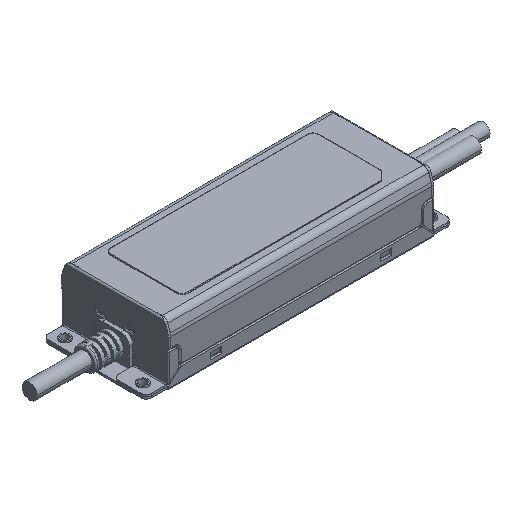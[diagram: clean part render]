
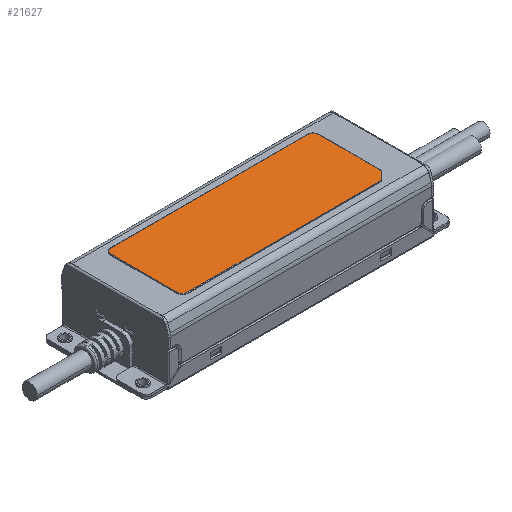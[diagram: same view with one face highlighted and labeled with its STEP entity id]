
A CAD part, isometric view. The second image highlights one B-rep face of the part: STEP entity #21627.
In plain terms, the highlighted planar face has unit normal (0, 0, 1).
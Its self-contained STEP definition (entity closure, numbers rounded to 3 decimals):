
#12642=DIRECTION('',(1.,0.,0.));
#12643=VECTOR('',#12642,113.917);
#12644=CARTESIAN_POINT('',(63.555,14.748,34.3));
#12645=LINE('',#12644,#12643);
#12694=DIRECTION('',(0.,-1.,0.));
#12695=VECTOR('',#12694,38.5);
#12696=CARTESIAN_POINT('',(60.255,56.548,34.3));
#12697=LINE('',#12696,#12695);
#12708=DIRECTION('',(-0.707,-0.707,0.));
#12709=VECTOR('',#12708,6.905);
#12710=CARTESIAN_POINT('',(182.355,19.631,34.3));
#12711=LINE('',#12710,#12709);
#12715=CARTESIAN_POINT('',(63.555,18.048,34.3));
#12716=DIRECTION('',(0.,0.,-1.));
#12717=DIRECTION('',(0.,-1.,0.));
#12718=AXIS2_PLACEMENT_3D('',#12715,#12716,#12717);
#12723=CARTESIAN_POINT('',(63.555,56.548,34.3));
#12724=DIRECTION('',(0.,0.,1.));
#12725=DIRECTION('',(0.,1.,0.));
#12726=AXIS2_PLACEMENT_3D('',#12723,#12724,#12725);
#12731=CARTESIAN_POINT('',(179.055,56.548,34.3));
#12732=DIRECTION('',(0.,0.,-1.));
#12733=DIRECTION('',(0.,1.,0.));
#12734=AXIS2_PLACEMENT_3D('',#12731,#12732,#12733);
#12739=DIRECTION('',(0.,1.,0.));
#12740=VECTOR('',#12739,36.917);
#12741=CARTESIAN_POINT('',(182.355,19.631,34.3));
#12742=LINE('',#12741,#12740);
#12836=DIRECTION('',(-1.,0.,0.));
#12837=VECTOR('',#12836,115.5);
#12838=CARTESIAN_POINT('',(179.055,59.848,34.3));
#12839=LINE('',#12838,#12837);
#18091=CARTESIAN_POINT('',(177.472,14.748,34.3));
#18092=VERTEX_POINT('',#18091);
#18093=CARTESIAN_POINT('',(63.555,14.748,34.3));
#18094=VERTEX_POINT('',#18093);
#18095=CARTESIAN_POINT('',(182.355,19.631,34.3));
#18096=VERTEX_POINT('',#18095);
#18129=CARTESIAN_POINT('',(63.555,59.848,34.3));
#18130=VERTEX_POINT('',#18129);
#18137=CARTESIAN_POINT('',(60.255,18.048,34.3));
#18138=VERTEX_POINT('',#18137);
#18139=CARTESIAN_POINT('',(60.255,56.548,34.3));
#18140=VERTEX_POINT('',#18139);
#18141=CARTESIAN_POINT('',(182.355,56.548,34.3));
#18142=VERTEX_POINT('',#18141);
#18143=CARTESIAN_POINT('',(179.055,59.848,34.3));
#18144=VERTEX_POINT('',#18143);
#21607=CARTESIAN_POINT('',(149.066,46.025,34.3));
#21608=DIRECTION('',(0.,0.,1.));
#21609=DIRECTION('',(1.,0.,0.));
#21610=AXIS2_PLACEMENT_3D('',#21607,#21608,#21609);
#21611=PLANE('',#21610);
#21613=ORIENTED_EDGE('',*,*,#21612,.F.);
#21615=ORIENTED_EDGE('',*,*,#21614,.T.);
#21616=ORIENTED_EDGE('',*,*,#21546,.F.);
#21617=ORIENTED_EDGE('',*,*,#21560,.T.);
#21618=ORIENTED_EDGE('',*,*,#21598,.F.);
#21620=ORIENTED_EDGE('',*,*,#21619,.F.);
#21622=ORIENTED_EDGE('',*,*,#21621,.F.);
#21624=ORIENTED_EDGE('',*,*,#21623,.T.);
#21625=EDGE_LOOP('',(#21613,#21615,#21616,#21617,#21618,#21620,#21622,#21624));
#21626=FACE_OUTER_BOUND('',#21625,.F.);
#12719=CIRCLE('',#12718,3.3);
#12727=CIRCLE('',#12726,3.3);
#12735=CIRCLE('',#12734,3.3);
#21546=EDGE_CURVE('',#18094,#18092,#12645,.T.);
#21560=EDGE_CURVE('',#18094,#18138,#12719,.T.);
#21598=EDGE_CURVE('',#18140,#18138,#12697,.T.);
#21612=EDGE_CURVE('',#18096,#18142,#12742,.T.);
#21614=EDGE_CURVE('',#18096,#18092,#12711,.T.);
#21619=EDGE_CURVE('',#18130,#18140,#12727,.T.);
#21621=EDGE_CURVE('',#18144,#18130,#12839,.T.);
#21623=EDGE_CURVE('',#18144,#18142,#12735,.T.);
#21627=ADVANCED_FACE('',(#21626),#21611,.T.);
